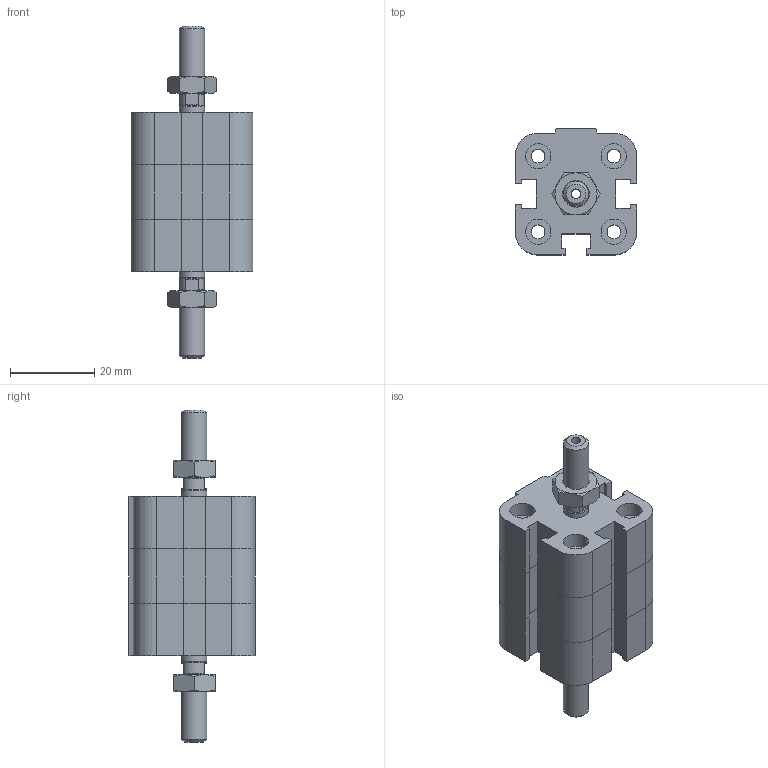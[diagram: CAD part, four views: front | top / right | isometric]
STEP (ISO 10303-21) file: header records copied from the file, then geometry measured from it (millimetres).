
FILE_DESCRIPTION((''),'2;1');
FILE_NAME('I:\Area Tecnica\Disegni\VARIE-3D\Componenti\EUROPE\15##_###_####_05_#\1581_12_0000_05_1.iam.stp','2009-04-20T14:58:51',(''),(''),'Autodesk Inventor 2009','Autodesk Inventor 2009','');
FILE_SCHEMA(('AUTOMOTIVE_DESIGN { 1 0 10303 214 1 1 1 1 }'));
Length unit declared in the file: millimetre
Products named in the file (4): 1581_12_0000_05_1; 1581_12_0000_03_1_C; 1561_12_0000_05_1_S; DBM6
Assembly tree (4 placements, depth 2):
  1581_12_0000_05_1
    1581_12_0000_03_1_C
    1561_12_0000_05_1_S
    DBM6  x2
Bounding box: 29 x 30 x 79 mm (x, y, z)
Volume: 27091.9 mm3; surface area: 12330.4 mm2
Topology: 4 solids, 4 shells, 213 faces, 474 edges, 279 vertices
Faces by surface type: plane 127, cone 35, bspline 30, cylinder 21
Full cylindrical faces by diameter (mm): 5 x1, 5.8 x2, 6 x6
Entity records: 5354 total; most frequent: CARTESIAN_POINT 1214, DIRECTION 786, ORIENTED_EDGE 772, EDGE_CURVE 386, AXIS2_PLACEMENT_3D 262, VECTOR 262, LINE 262, EDGE_LOOP 246
